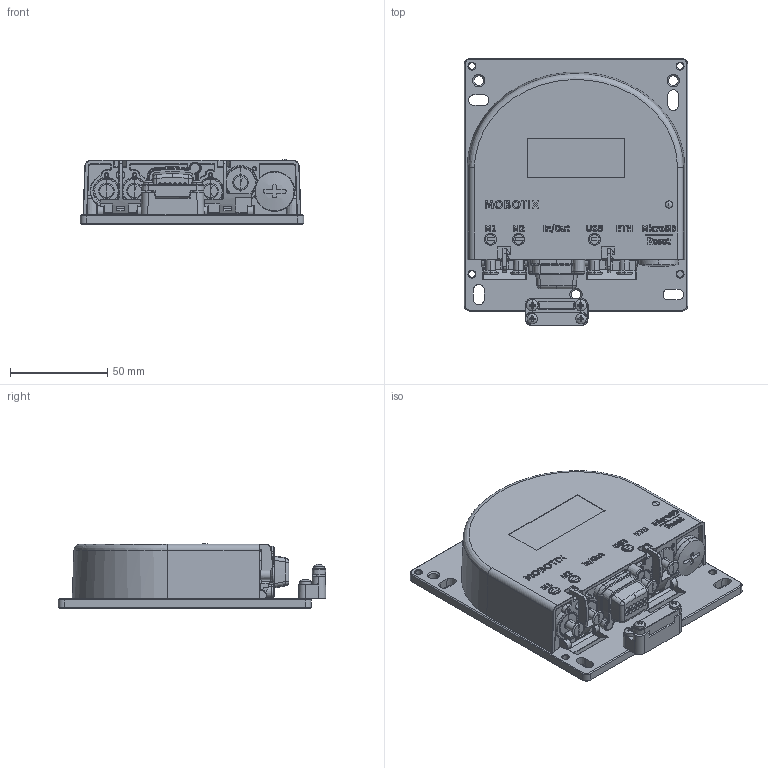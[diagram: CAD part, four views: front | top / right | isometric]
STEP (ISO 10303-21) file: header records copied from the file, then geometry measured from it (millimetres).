
FILE_DESCRIPTION (( 'STEP AP214' ), '1' );
FILE_NAME ('Mx-ONE-S1A-D_STEP.STEP', '2026-02-03T09:25:38', ( '' ), ( '' ), 'SwSTEP 2.0', 'SolidWorks 2025', '' );
FILE_SCHEMA (( 'AUTOMOTIVE_DESIGN' ));
Length unit declared in the file: millimetre
Products named in the file (1): Mx-ONE-S1A-D_STEP
Bounding box: 115 x 137.5 x 33.5 mm (x, y, z)
Volume: 349100.6 mm3; surface area: 51346.5 mm2
Topology: 2 solids, 3 shells, 1719 faces, 4381 edges, 2721 vertices
Faces by surface type: plane 658, bspline 358, cylinder 305, cone 237, torus 116, sphere 45
Entity records: 64635 total; most frequent: CARTESIAN_POINT 26259, ORIENTED_EDGE 8680, DIRECTION 7085, EDGE_CURVE 4340, VERTEX_POINT 2719, AXIS2_PLACEMENT_3D 2479, LINE 2127, VECTOR 2127
